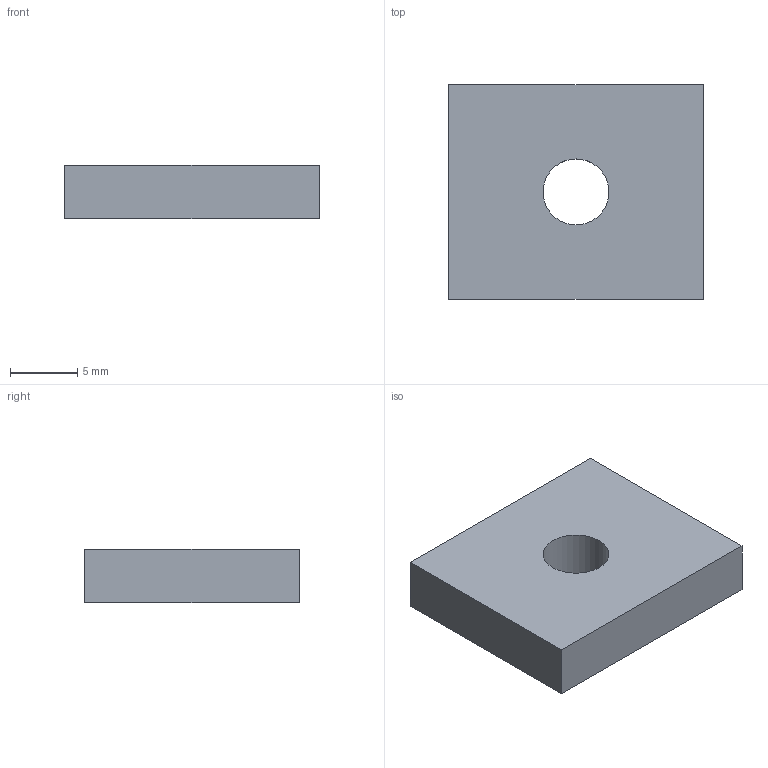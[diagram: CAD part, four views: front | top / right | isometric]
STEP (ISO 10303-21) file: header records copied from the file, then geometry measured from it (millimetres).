
FILE_DESCRIPTION(/* description */ ('STEP AP203'),/* implementation_level */ '2;1');
FILE_NAME(/* name */ '096P0191604M6(high)',/* time_stamp */ '2026-04-27T16:46:06+02:00',/* author */ ('License CC BY-ND 4.0'),/* organization */ ('CADENAS'),/* preprocessor_version */ 'ST-DEVELOPER v20',/* originating_system */ 'PARTsolutions',/* authorisation */ ' ');
FILE_SCHEMA (('CONFIG_CONTROL_DESIGN','FEATURE_BASED_PROCESS_PLANNING'));
Length unit declared in the file: millimetre
Products named in the file (1): 096P0191604M6(high)
Bounding box: 19 x 16 x 4 mm (x, y, z)
Volume: 1140 mm3; surface area: 911.8 mm2
Topology: 1 solids, 1 shells, 7 faces, 15 edges, 10 vertices
Faces by surface type: plane 6, cylinder 1
Full cylindrical faces by diameter (mm): 4.917 x1
Entity records: 211 total; most frequent: DIRECTION 32, CARTESIAN_POINT 32, ORIENTED_EDGE 28, EDGE_CURVE 14, LINE 12, VECTOR 12, VERTEX_POINT 10, EDGE_LOOP 10
